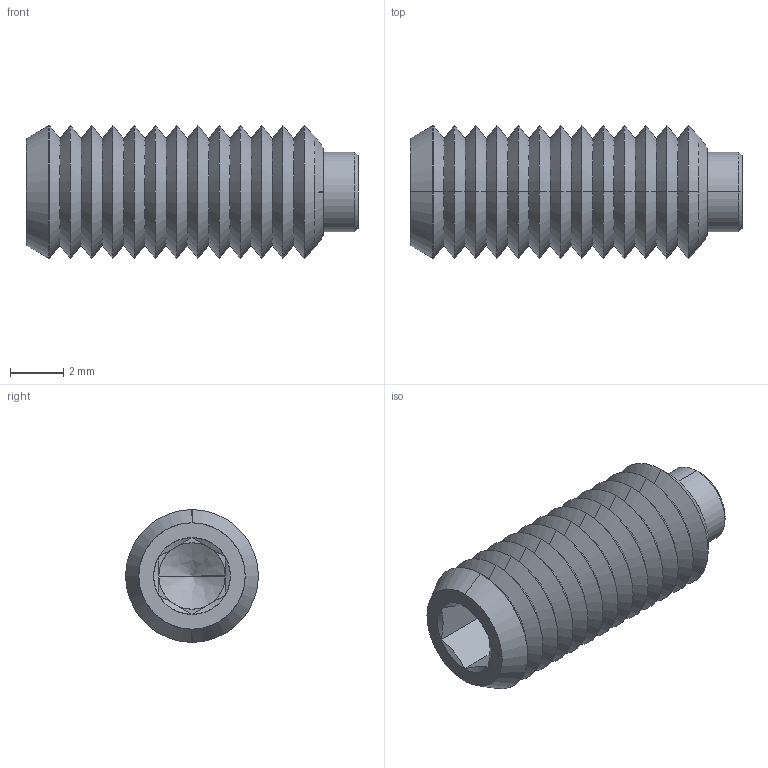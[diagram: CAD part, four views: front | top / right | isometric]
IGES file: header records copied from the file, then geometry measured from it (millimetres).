
Start section: SolidWorks IGES file using analytic representation for surfaces
Global section: file name: C:\Users\IanO\Desktop\P0120_v2_230406\P0120_v2_20230506_IGES\P0120.050-012.igs; native system: SolidWorks 2019; preprocessor: SolidWorks 2019; author: IanO; date: 230406.142313; units: millimetre
Bounding box: 12.5 x 5 x 5 mm (x, y, z)
Surface area: 339.4 mm2 (no closed solid volume)
Topology: 0 solids, 0 shells, 87 faces, 594 edges, 592 vertices
Faces by surface type: revolution 70, bspline 17
